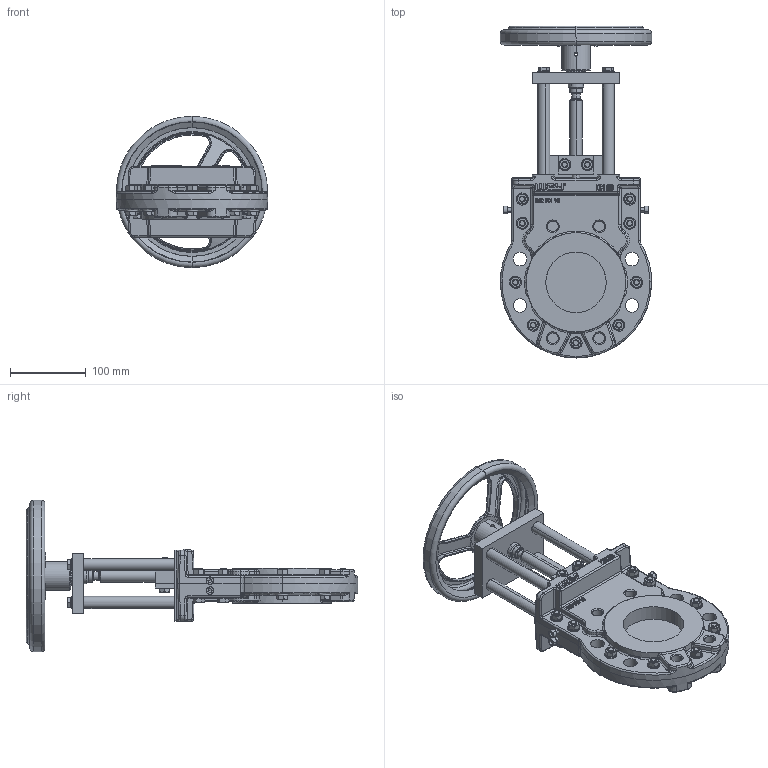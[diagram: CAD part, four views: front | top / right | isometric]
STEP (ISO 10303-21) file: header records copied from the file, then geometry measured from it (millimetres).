
FILE_DESCRIPTION (( 'STEP AP214' ), '1' );
FILE_NAME ('MGA DN 0080 PN16 (DH 200).STEP', '2015-09-23T08:01:37', ( 'admin' ), ( 'Hewlett-Packard Company' ), 'SwSTEP 2.0', 'SolidWorks 2013', '' );
FILE_SCHEMA (( 'AUTOMOTIVE_DESIGN' ));
Length unit declared in the file: millimetre
Products named in the file (1): MGA DN 0080 PN16 (DH 200)
Bounding box: 200 x 438.5 x 200 mm (x, y, z)
Volume: 1858869.4 mm3; surface area: 360109.7 mm2
Topology: 58 solids, 67 shells, 2233 faces, 5170 edges, 3119 vertices
Faces by surface type: plane 803, cylinder 540, cone 440, bspline 278, torus 152, sphere 20
Entity records: 102201 total; most frequent: CARTESIAN_POINT 28157, ORIENTED_EDGE 10256, DIRECTION 9925, EDGE_CURVE 5128, AXIS2_PLACEMENT_3D 3921, VERTEX_POINT 3119, EDGE_LOOP 2453, UNCERTAINTY_MEASURE_WITH_UNIT 2291
